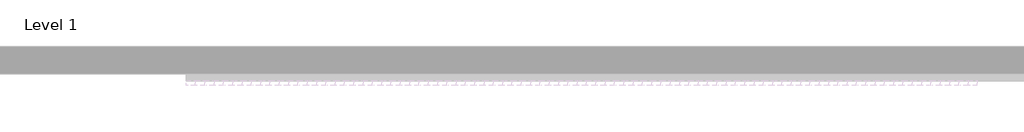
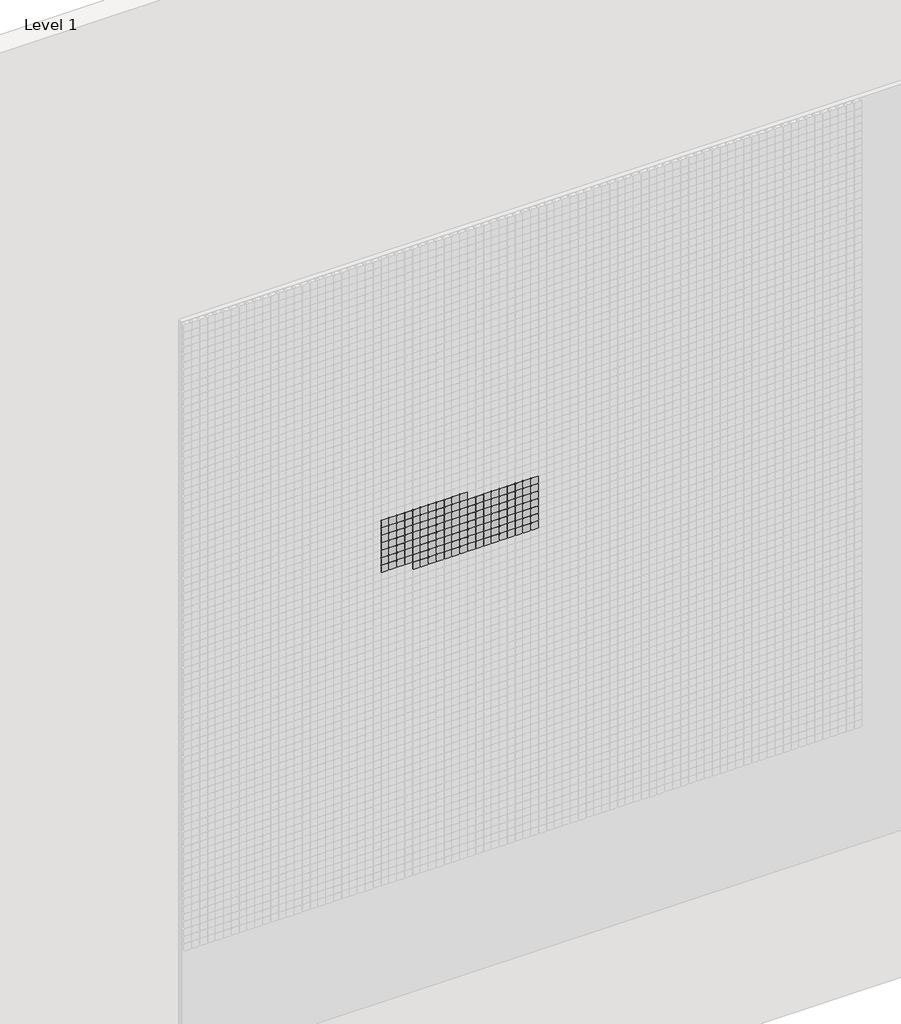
# One storey, part 26 of 71: 147 proxies.
"""IFC4 building model written with IfcOpenShell, lengths in millimetres."""

from ifc_helpers import new_model, si_unit, origin, place, context, project, spatial, transform, mapped, element, save
from components import generic_models_afde289c

model = new_model("IFC4")

# Units and contexts
model_context = context("Model", 3, world=origin())
ifc_project = project(units=[si_unit("LENGTHUNIT", "METRE", prefix="MILLI")], contexts=[model_context])

# Site, building, storey
site = spatial("IfcSite", under=ifc_project)
building = spatial("IfcBuilding", under=site)
storey = spatial("IfcBuildingStorey", under=building, Name="Level 1", Elevation=0.0)

# Proxies
placement = place(None, origin())
generic_models_shape = generic_models_afde289c(model_context)
element("IfcBuildingElementProxy", 1, Name="Pixel_M : Pixel_M", ObjectType="Pixel_M : Pixel_M", at=placement, inside=storey, context=model_context, shape_type="MappedRepresentation", body=[
    mapped(generic_models_shape, transform((6512.4280941, -75.0, 4216.3566215), x_axis=(1.0, 0.0, 0.0), y_axis=(0.0, 0.0, 1.0), z_axis=(0.0, -1.0, 0.0))),
])
element("IfcBuildingElementProxy", 2, Name="Pixel_M : Pixel_M", ObjectType="Pixel_M : Pixel_M", at=placement, inside=storey, context=model_context, shape_type="MappedRepresentation", body=[
    mapped(generic_models_shape, transform((6462.4280941, -75.0, 4216.3566215), x_axis=(1.0, 0.0, 0.0), y_axis=(0.0, 0.0, 1.0), z_axis=(0.0, -1.0, 0.0))),
])
element("IfcBuildingElementProxy", 3, Name="Pixel_M : Pixel_M", ObjectType="Pixel_M : Pixel_M", at=placement, inside=storey, context=model_context, shape_type="MappedRepresentation", body=[
    mapped(generic_models_shape, transform((6412.4280941, -75.0, 4216.3566215), x_axis=(1.0, 0.0, 0.0), y_axis=(0.0, 0.0, 1.0), z_axis=(0.0, -1.0, 0.0))),
])
element("IfcBuildingElementProxy", 4, Name="Pixel_M : Pixel_M", ObjectType="Pixel_M : Pixel_M", at=placement, inside=storey, context=model_context, shape_type="MappedRepresentation", body=[
    mapped(generic_models_shape, transform((6362.4280941, -75.0, 4216.3566215), x_axis=(1.0, 0.0, 0.0), y_axis=(0.0, 0.0, 1.0), z_axis=(0.0, -1.0, 0.0))),
])
element("IfcBuildingElementProxy", 5, Name="Pixel_M : Pixel_M", ObjectType="Pixel_M : Pixel_M", at=placement, inside=storey, context=model_context, shape_type="MappedRepresentation", body=[
    mapped(generic_models_shape, transform((6312.4280941, -75.0, 4216.3566215), x_axis=(1.0, 0.0, 0.0), y_axis=(0.0, 0.0, 1.0), z_axis=(0.0, -1.0, 0.0))),
])
element("IfcBuildingElementProxy", 6, Name="Pixel_M : Pixel_M", ObjectType="Pixel_M : Pixel_M", at=placement, inside=storey, context=model_context, shape_type="MappedRepresentation", body=[
    mapped(generic_models_shape, transform((6262.4280941, -75.0, 4216.3566215), x_axis=(1.0, 0.0, 0.0), y_axis=(0.0, 0.0, 1.0), z_axis=(0.0, -1.0, 0.0))),
])
element("IfcBuildingElementProxy", 7, Name="Pixel_M : Pixel_M", ObjectType="Pixel_M : Pixel_M", at=placement, inside=storey, context=model_context, shape_type="MappedRepresentation", body=[
    mapped(generic_models_shape, transform((6212.4280941, -75.0, 4216.3566215), x_axis=(1.0, 0.0, 0.0), y_axis=(0.0, 0.0, 1.0), z_axis=(0.0, -1.0, 0.0))),
])
element("IfcBuildingElementProxy", 8, Name="Pixel_M : Pixel_M", ObjectType="Pixel_M : Pixel_M", at=placement, inside=storey, context=model_context, shape_type="MappedRepresentation", body=[
    mapped(generic_models_shape, transform((6162.4280941, -75.0, 4216.3566215), x_axis=(1.0, 0.0, 0.0), y_axis=(0.0, 0.0, 1.0), z_axis=(0.0, -1.0, 0.0))),
])
element("IfcBuildingElementProxy", 9, Name="Pixel_M : Pixel_M", ObjectType="Pixel_M : Pixel_M", at=placement, inside=storey, context=model_context, shape_type="MappedRepresentation", body=[
    mapped(generic_models_shape, transform((6112.4280941, -75.0, 4216.3566215), x_axis=(1.0, 0.0, 0.0), y_axis=(0.0, 0.0, 1.0), z_axis=(0.0, -1.0, 0.0))),
])
element("IfcBuildingElementProxy", 10, Name="Pixel_M : Pixel_M", ObjectType="Pixel_M : Pixel_M", at=placement, inside=storey, context=model_context, shape_type="MappedRepresentation", body=[
    mapped(generic_models_shape, transform((6062.4280941, -75.0, 4216.3566215), x_axis=(1.0, 0.0, 0.0), y_axis=(0.0, 0.0, 1.0), z_axis=(0.0, -1.0, 0.0))),
])
element("IfcBuildingElementProxy", 11, Name="Pixel_M : Pixel_M", ObjectType="Pixel_M : Pixel_M", at=placement, inside=storey, context=model_context, shape_type="MappedRepresentation", body=[
    mapped(generic_models_shape, transform((6012.4280941, -75.0, 4216.3566215), x_axis=(1.0, 0.0, 0.0), y_axis=(0.0, 0.0, 1.0), z_axis=(0.0, -1.0, 0.0))),
])
element("IfcBuildingElementProxy", 12, Name="Pixel_M : Pixel_M", ObjectType="Pixel_M : Pixel_M", at=placement, inside=storey, context=model_context, shape_type="MappedRepresentation", body=[
    mapped(generic_models_shape, transform((6962.4280941, -75.0, 4166.3566215), x_axis=(1.0, 0.0, 0.0), y_axis=(0.0, 0.0, 1.0), z_axis=(0.0, -1.0, 0.0))),
])
element("IfcBuildingElementProxy", 13, Name="Pixel_M : Pixel_M", ObjectType="Pixel_M : Pixel_M", at=placement, inside=storey, context=model_context, shape_type="MappedRepresentation", body=[
    mapped(generic_models_shape, transform((6912.4280941, -75.0, 4166.3566215), x_axis=(1.0, 0.0, 0.0), y_axis=(0.0, 0.0, 1.0), z_axis=(0.0, -1.0, 0.0))),
])
element("IfcBuildingElementProxy", 14, Name="Pixel_M : Pixel_M", ObjectType="Pixel_M : Pixel_M", at=placement, inside=storey, context=model_context, shape_type="MappedRepresentation", body=[
    mapped(generic_models_shape, transform((6862.4280941, -75.0, 4166.3566215), x_axis=(1.0, 0.0, 0.0), y_axis=(0.0, 0.0, 1.0), z_axis=(0.0, -1.0, 0.0))),
])
element("IfcBuildingElementProxy", 15, Name="Pixel_M : Pixel_M", ObjectType="Pixel_M : Pixel_M", at=placement, inside=storey, context=model_context, shape_type="MappedRepresentation", body=[
    mapped(generic_models_shape, transform((6812.4280941, -75.0, 4166.3566215), x_axis=(1.0, 0.0, 0.0), y_axis=(0.0, 0.0, 1.0), z_axis=(0.0, -1.0, 0.0))),
])
element("IfcBuildingElementProxy", 16, Name="Pixel_M : Pixel_M", ObjectType="Pixel_M : Pixel_M", at=placement, inside=storey, context=model_context, shape_type="MappedRepresentation", body=[
    mapped(generic_models_shape, transform((6762.4280941, -75.0, 4166.3566215), x_axis=(1.0, 0.0, 0.0), y_axis=(0.0, 0.0, 1.0), z_axis=(0.0, -1.0, 0.0))),
])
element("IfcBuildingElementProxy", 17, Name="Pixel_M : Pixel_M", ObjectType="Pixel_M : Pixel_M", at=placement, inside=storey, context=model_context, shape_type="MappedRepresentation", body=[
    mapped(generic_models_shape, transform((6712.4280941, -75.0, 4166.3566215), x_axis=(1.0, 0.0, 0.0), y_axis=(0.0, 0.0, 1.0), z_axis=(0.0, -1.0, 0.0))),
])
element("IfcBuildingElementProxy", 18, Name="Pixel_M : Pixel_M", ObjectType="Pixel_M : Pixel_M", at=placement, inside=storey, context=model_context, shape_type="MappedRepresentation", body=[
    mapped(generic_models_shape, transform((6662.4280941, -75.0, 4166.3566215), x_axis=(1.0, 0.0, 0.0), y_axis=(0.0, 0.0, 1.0), z_axis=(0.0, -1.0, 0.0))),
])
element("IfcBuildingElementProxy", 19, Name="Pixel_M : Pixel_M", ObjectType="Pixel_M : Pixel_M", at=placement, inside=storey, context=model_context, shape_type="MappedRepresentation", body=[
    mapped(generic_models_shape, transform((6612.4280941, -75.0, 4166.3566215), x_axis=(1.0, 0.0, 0.0), y_axis=(0.0, 0.0, 1.0), z_axis=(0.0, -1.0, 0.0))),
])
element("IfcBuildingElementProxy", 20, Name="Pixel_M : Pixel_M", ObjectType="Pixel_M : Pixel_M", at=placement, inside=storey, context=model_context, shape_type="MappedRepresentation", body=[
    mapped(generic_models_shape, transform((6562.4280941, -75.0, 4166.3566215), x_axis=(1.0, 0.0, 0.0), y_axis=(0.0, 0.0, 1.0), z_axis=(0.0, -1.0, 0.0))),
])
element("IfcBuildingElementProxy", 21, Name="Pixel_M : Pixel_M", ObjectType="Pixel_M : Pixel_M", at=placement, inside=storey, context=model_context, shape_type="MappedRepresentation", body=[
    mapped(generic_models_shape, transform((6512.4280941, -75.0, 4166.3566215), x_axis=(1.0, 0.0, 0.0), y_axis=(0.0, 0.0, 1.0), z_axis=(0.0, -1.0, 0.0))),
])
element("IfcBuildingElementProxy", 22, Name="Pixel_M : Pixel_M", ObjectType="Pixel_M : Pixel_M", at=placement, inside=storey, context=model_context, shape_type="MappedRepresentation", body=[
    mapped(generic_models_shape, transform((6462.4280941, -75.0, 4166.3566215), x_axis=(1.0, 0.0, 0.0), y_axis=(0.0, 0.0, 1.0), z_axis=(0.0, -1.0, 0.0))),
])
element("IfcBuildingElementProxy", 23, Name="Pixel_M : Pixel_M", ObjectType="Pixel_M : Pixel_M", at=placement, inside=storey, context=model_context, shape_type="MappedRepresentation", body=[
    mapped(generic_models_shape, transform((6412.4280941, -75.0, 4166.3566215), x_axis=(1.0, 0.0, 0.0), y_axis=(0.0, 0.0, 1.0), z_axis=(0.0, -1.0, 0.0))),
])
element("IfcBuildingElementProxy", 24, Name="Pixel_M : Pixel_M", ObjectType="Pixel_M : Pixel_M", at=placement, inside=storey, context=model_context, shape_type="MappedRepresentation", body=[
    mapped(generic_models_shape, transform((6362.4280941, -75.0, 4166.3566215), x_axis=(1.0, 0.0, 0.0), y_axis=(0.0, 0.0, 1.0), z_axis=(0.0, -1.0, 0.0))),
])
element("IfcBuildingElementProxy", 25, Name="Pixel_M : Pixel_M", ObjectType="Pixel_M : Pixel_M", at=placement, inside=storey, context=model_context, shape_type="MappedRepresentation", body=[
    mapped(generic_models_shape, transform((6312.4280941, -75.0, 4166.3566215), x_axis=(1.0, 0.0, 0.0), y_axis=(0.0, 0.0, 1.0), z_axis=(0.0, -1.0, 0.0))),
])
element("IfcBuildingElementProxy", 26, Name="Pixel_M : Pixel_M", ObjectType="Pixel_M : Pixel_M", at=placement, inside=storey, context=model_context, shape_type="MappedRepresentation", body=[
    mapped(generic_models_shape, transform((6262.4280941, -75.0, 4166.3566215), x_axis=(1.0, 0.0, 0.0), y_axis=(0.0, 0.0, 1.0), z_axis=(0.0, -1.0, 0.0))),
])
element("IfcBuildingElementProxy", 27, Name="Pixel_M : Pixel_M", ObjectType="Pixel_M : Pixel_M", at=placement, inside=storey, context=model_context, shape_type="MappedRepresentation", body=[
    mapped(generic_models_shape, transform((6212.4280941, -75.0, 4166.3566215), x_axis=(1.0, 0.0, 0.0), y_axis=(0.0, 0.0, 1.0), z_axis=(0.0, -1.0, 0.0))),
])
element("IfcBuildingElementProxy", 28, Name="Pixel_M : Pixel_M", ObjectType="Pixel_M : Pixel_M", at=placement, inside=storey, context=model_context, shape_type="MappedRepresentation", body=[
    mapped(generic_models_shape, transform((6162.4280941, -75.0, 4166.3566215), x_axis=(1.0, 0.0, 0.0), y_axis=(0.0, 0.0, 1.0), z_axis=(0.0, -1.0, 0.0))),
])
element("IfcBuildingElementProxy", 29, Name="Pixel_M : Pixel_M", ObjectType="Pixel_M : Pixel_M", at=placement, inside=storey, context=model_context, shape_type="MappedRepresentation", body=[
    mapped(generic_models_shape, transform((6112.4280941, -75.0, 4166.3566215), x_axis=(1.0, 0.0, 0.0), y_axis=(0.0, 0.0, 1.0), z_axis=(0.0, -1.0, 0.0))),
])
element("IfcBuildingElementProxy", 30, Name="Pixel_M : Pixel_M", ObjectType="Pixel_M : Pixel_M", at=placement, inside=storey, context=model_context, shape_type="MappedRepresentation", body=[
    mapped(generic_models_shape, transform((6062.4280941, -75.0, 4166.3566215), x_axis=(1.0, 0.0, 0.0), y_axis=(0.0, 0.0, 1.0), z_axis=(0.0, -1.0, 0.0))),
])
element("IfcBuildingElementProxy", 31, Name="Pixel_M : Pixel_M", ObjectType="Pixel_M : Pixel_M", at=placement, inside=storey, context=model_context, shape_type="MappedRepresentation", body=[
    mapped(generic_models_shape, transform((6012.4280941, -75.0, 4166.3566215), x_axis=(1.0, 0.0, 0.0), y_axis=(0.0, 0.0, 1.0), z_axis=(0.0, -1.0, 0.0))),
])
element("IfcBuildingElementProxy", 32, Name="Pixel_M : Pixel_M", ObjectType="Pixel_M : Pixel_M", at=placement, inside=storey, context=model_context, shape_type="MappedRepresentation", body=[
    mapped(generic_models_shape, transform((6962.4280941, -75.0, 4116.3566215), x_axis=(1.0, 0.0, 0.0), y_axis=(0.0, 0.0, 1.0), z_axis=(0.0, -1.0, 0.0))),
])
element("IfcBuildingElementProxy", 33, Name="Pixel_M : Pixel_M", ObjectType="Pixel_M : Pixel_M", at=placement, inside=storey, context=model_context, shape_type="MappedRepresentation", body=[
    mapped(generic_models_shape, transform((6912.4280941, -75.0, 4116.3566215), x_axis=(1.0, 0.0, 0.0), y_axis=(0.0, 0.0, 1.0), z_axis=(0.0, -1.0, 0.0))),
])
element("IfcBuildingElementProxy", 34, Name="Pixel_M : Pixel_M", ObjectType="Pixel_M : Pixel_M", at=placement, inside=storey, context=model_context, shape_type="MappedRepresentation", body=[
    mapped(generic_models_shape, transform((6862.4280941, -75.0, 4116.3566215), x_axis=(1.0, 0.0, 0.0), y_axis=(0.0, 0.0, 1.0), z_axis=(0.0, -1.0, 0.0))),
])
element("IfcBuildingElementProxy", 35, Name="Pixel_M : Pixel_M", ObjectType="Pixel_M : Pixel_M", at=placement, inside=storey, context=model_context, shape_type="MappedRepresentation", body=[
    mapped(generic_models_shape, transform((6812.4280941, -75.0, 4116.3566215), x_axis=(1.0, 0.0, 0.0), y_axis=(0.0, 0.0, 1.0), z_axis=(0.0, -1.0, 0.0))),
])
element("IfcBuildingElementProxy", 36, Name="Pixel_M : Pixel_M", ObjectType="Pixel_M : Pixel_M", at=placement, inside=storey, context=model_context, shape_type="MappedRepresentation", body=[
    mapped(generic_models_shape, transform((6762.4280941, -75.0, 4116.3566215), x_axis=(1.0, 0.0, 0.0), y_axis=(0.0, 0.0, 1.0), z_axis=(0.0, -1.0, 0.0))),
])
element("IfcBuildingElementProxy", 37, Name="Pixel_M : Pixel_M", ObjectType="Pixel_M : Pixel_M", at=placement, inside=storey, context=model_context, shape_type="MappedRepresentation", body=[
    mapped(generic_models_shape, transform((6712.4280941, -75.0, 4116.3566215), x_axis=(1.0, 0.0, 0.0), y_axis=(0.0, 0.0, 1.0), z_axis=(0.0, -1.0, 0.0))),
])
element("IfcBuildingElementProxy", 38, Name="Pixel_M : Pixel_M", ObjectType="Pixel_M : Pixel_M", at=placement, inside=storey, context=model_context, shape_type="MappedRepresentation", body=[
    mapped(generic_models_shape, transform((6662.4280941, -75.0, 4116.3566215), x_axis=(1.0, 0.0, 0.0), y_axis=(0.0, 0.0, 1.0), z_axis=(0.0, -1.0, 0.0))),
])
element("IfcBuildingElementProxy", 39, Name="Pixel_M : Pixel_M", ObjectType="Pixel_M : Pixel_M", at=placement, inside=storey, context=model_context, shape_type="MappedRepresentation", body=[
    mapped(generic_models_shape, transform((6612.4280941, -75.0, 4116.3566215), x_axis=(1.0, 0.0, 0.0), y_axis=(0.0, 0.0, 1.0), z_axis=(0.0, -1.0, 0.0))),
])
element("IfcBuildingElementProxy", 40, Name="Pixel_M : Pixel_M", ObjectType="Pixel_M : Pixel_M", at=placement, inside=storey, context=model_context, shape_type="MappedRepresentation", body=[
    mapped(generic_models_shape, transform((6562.4280941, -75.0, 4116.3566215), x_axis=(1.0, 0.0, 0.0), y_axis=(0.0, 0.0, 1.0), z_axis=(0.0, -1.0, 0.0))),
])
element("IfcBuildingElementProxy", 41, Name="Pixel_M : Pixel_M", ObjectType="Pixel_M : Pixel_M", at=placement, inside=storey, context=model_context, shape_type="MappedRepresentation", body=[
    mapped(generic_models_shape, transform((6512.4280941, -75.0, 4116.3566215), x_axis=(1.0, 0.0, 0.0), y_axis=(0.0, 0.0, 1.0), z_axis=(0.0, -1.0, 0.0))),
])
element("IfcBuildingElementProxy", 42, Name="Pixel_M : Pixel_M", ObjectType="Pixel_M : Pixel_M", at=placement, inside=storey, context=model_context, shape_type="MappedRepresentation", body=[
    mapped(generic_models_shape, transform((6462.4280941, -75.0, 4116.3566215), x_axis=(1.0, 0.0, 0.0), y_axis=(0.0, 0.0, 1.0), z_axis=(0.0, -1.0, 0.0))),
])
element("IfcBuildingElementProxy", 43, Name="Pixel_M : Pixel_M", ObjectType="Pixel_M : Pixel_M", at=placement, inside=storey, context=model_context, shape_type="MappedRepresentation", body=[
    mapped(generic_models_shape, transform((6412.4280941, -75.0, 4116.3566215), x_axis=(1.0, 0.0, 0.0), y_axis=(0.0, 0.0, 1.0), z_axis=(0.0, -1.0, 0.0))),
])
element("IfcBuildingElementProxy", 44, Name="Pixel_M : Pixel_M", ObjectType="Pixel_M : Pixel_M", at=placement, inside=storey, context=model_context, shape_type="MappedRepresentation", body=[
    mapped(generic_models_shape, transform((6362.4280941, -75.0, 4116.3566215), x_axis=(1.0, 0.0, 0.0), y_axis=(0.0, 0.0, 1.0), z_axis=(0.0, -1.0, 0.0))),
])
element("IfcBuildingElementProxy", 45, Name="Pixel_M : Pixel_M", ObjectType="Pixel_M : Pixel_M", at=placement, inside=storey, context=model_context, shape_type="MappedRepresentation", body=[
    mapped(generic_models_shape, transform((6312.4280941, -75.0, 4116.3566215), x_axis=(1.0, 0.0, 0.0), y_axis=(0.0, 0.0, 1.0), z_axis=(0.0, -1.0, 0.0))),
])
element("IfcBuildingElementProxy", 46, Name="Pixel_M : Pixel_M", ObjectType="Pixel_M : Pixel_M", at=placement, inside=storey, context=model_context, shape_type="MappedRepresentation", body=[
    mapped(generic_models_shape, transform((6262.4280941, -75.0, 4116.3566215), x_axis=(1.0, 0.0, 0.0), y_axis=(0.0, 0.0, 1.0), z_axis=(0.0, -1.0, 0.0))),
])
element("IfcBuildingElementProxy", 47, Name="Pixel_M : Pixel_M", ObjectType="Pixel_M : Pixel_M", at=placement, inside=storey, context=model_context, shape_type="MappedRepresentation", body=[
    mapped(generic_models_shape, transform((6212.4280941, -75.0, 4116.3566215), x_axis=(1.0, 0.0, 0.0), y_axis=(0.0, 0.0, 1.0), z_axis=(0.0, -1.0, 0.0))),
])
element("IfcBuildingElementProxy", 48, Name="Pixel_M : Pixel_M", ObjectType="Pixel_M : Pixel_M", at=placement, inside=storey, context=model_context, shape_type="MappedRepresentation", body=[
    mapped(generic_models_shape, transform((6162.4280941, -75.0, 4116.3566215), x_axis=(1.0, 0.0, 0.0), y_axis=(0.0, 0.0, 1.0), z_axis=(0.0, -1.0, 0.0))),
])
element("IfcBuildingElementProxy", 49, Name="Pixel_M : Pixel_M", ObjectType="Pixel_M : Pixel_M", at=placement, inside=storey, context=model_context, shape_type="MappedRepresentation", body=[
    mapped(generic_models_shape, transform((6112.4280941, -75.0, 4116.3566215), x_axis=(1.0, 0.0, 0.0), y_axis=(0.0, 0.0, 1.0), z_axis=(0.0, -1.0, 0.0))),
])
element("IfcBuildingElementProxy", 50, Name="Pixel_M : Pixel_M", ObjectType="Pixel_M : Pixel_M", at=placement, inside=storey, context=model_context, shape_type="MappedRepresentation", body=[
    mapped(generic_models_shape, transform((6062.4280941, -75.0, 4116.3566215), x_axis=(1.0, 0.0, 0.0), y_axis=(0.0, 0.0, 1.0), z_axis=(0.0, -1.0, 0.0))),
])
element("IfcBuildingElementProxy", 51, Name="Pixel_M : Pixel_M", ObjectType="Pixel_M : Pixel_M", at=placement, inside=storey, context=model_context, shape_type="MappedRepresentation", body=[
    mapped(generic_models_shape, transform((6012.4280941, -75.0, 4116.3566215), x_axis=(1.0, 0.0, 0.0), y_axis=(0.0, 0.0, 1.0), z_axis=(0.0, -1.0, 0.0))),
])
element("IfcBuildingElementProxy", 52, Name="Pixel_M : Pixel_M", ObjectType="Pixel_M : Pixel_M", at=placement, inside=storey, context=model_context, shape_type="MappedRepresentation", body=[
    mapped(generic_models_shape, transform((6962.4280941, -75.0, 4066.3566215), x_axis=(1.0, 0.0, 0.0), y_axis=(0.0, 0.0, 1.0), z_axis=(0.0, -1.0, 0.0))),
])
element("IfcBuildingElementProxy", 53, Name="Pixel_M : Pixel_M", ObjectType="Pixel_M : Pixel_M", at=placement, inside=storey, context=model_context, shape_type="MappedRepresentation", body=[
    mapped(generic_models_shape, transform((6912.4280941, -75.0, 4066.3566215), x_axis=(1.0, 0.0, 0.0), y_axis=(0.0, 0.0, 1.0), z_axis=(0.0, -1.0, 0.0))),
])
element("IfcBuildingElementProxy", 54, Name="Pixel_M : Pixel_M", ObjectType="Pixel_M : Pixel_M", at=placement, inside=storey, context=model_context, shape_type="MappedRepresentation", body=[
    mapped(generic_models_shape, transform((6862.4280941, -75.0, 4066.3566215), x_axis=(1.0, 0.0, 0.0), y_axis=(0.0, 0.0, 1.0), z_axis=(0.0, -1.0, 0.0))),
])
element("IfcBuildingElementProxy", 55, Name="Pixel_M : Pixel_M", ObjectType="Pixel_M : Pixel_M", at=placement, inside=storey, context=model_context, shape_type="MappedRepresentation", body=[
    mapped(generic_models_shape, transform((6812.4280941, -75.0, 4066.3566215), x_axis=(1.0, 0.0, 0.0), y_axis=(0.0, 0.0, 1.0), z_axis=(0.0, -1.0, 0.0))),
])
element("IfcBuildingElementProxy", 56, Name="Pixel_M : Pixel_M", ObjectType="Pixel_M : Pixel_M", at=placement, inside=storey, context=model_context, shape_type="MappedRepresentation", body=[
    mapped(generic_models_shape, transform((6762.4280941, -75.0, 4066.3566215), x_axis=(1.0, 0.0, 0.0), y_axis=(0.0, 0.0, 1.0), z_axis=(0.0, -1.0, 0.0))),
])
element("IfcBuildingElementProxy", 57, Name="Pixel_M : Pixel_M", ObjectType="Pixel_M : Pixel_M", at=placement, inside=storey, context=model_context, shape_type="MappedRepresentation", body=[
    mapped(generic_models_shape, transform((6712.4280941, -75.0, 4066.3566215), x_axis=(1.0, 0.0, 0.0), y_axis=(0.0, 0.0, 1.0), z_axis=(0.0, -1.0, 0.0))),
])
element("IfcBuildingElementProxy", 58, Name="Pixel_M : Pixel_M", ObjectType="Pixel_M : Pixel_M", at=placement, inside=storey, context=model_context, shape_type="MappedRepresentation", body=[
    mapped(generic_models_shape, transform((6662.4280941, -75.0, 4066.3566215), x_axis=(1.0, 0.0, 0.0), y_axis=(0.0, 0.0, 1.0), z_axis=(0.0, -1.0, 0.0))),
])
element("IfcBuildingElementProxy", 59, Name="Pixel_M : Pixel_M", ObjectType="Pixel_M : Pixel_M", at=placement, inside=storey, context=model_context, shape_type="MappedRepresentation", body=[
    mapped(generic_models_shape, transform((6612.4280941, -75.0, 4066.3566215), x_axis=(1.0, 0.0, 0.0), y_axis=(0.0, 0.0, 1.0), z_axis=(0.0, -1.0, 0.0))),
])
element("IfcBuildingElementProxy", 60, Name="Pixel_M : Pixel_M", ObjectType="Pixel_M : Pixel_M", at=placement, inside=storey, context=model_context, shape_type="MappedRepresentation", body=[
    mapped(generic_models_shape, transform((6562.4280941, -75.0, 4066.3566215), x_axis=(1.0, 0.0, 0.0), y_axis=(0.0, 0.0, 1.0), z_axis=(0.0, -1.0, 0.0))),
])
element("IfcBuildingElementProxy", 61, Name="Pixel_M : Pixel_M", ObjectType="Pixel_M : Pixel_M", at=placement, inside=storey, context=model_context, shape_type="MappedRepresentation", body=[
    mapped(generic_models_shape, transform((6512.4280941, -75.0, 4066.3566215), x_axis=(1.0, 0.0, 0.0), y_axis=(0.0, 0.0, 1.0), z_axis=(0.0, -1.0, 0.0))),
])
element("IfcBuildingElementProxy", 62, Name="Pixel_M : Pixel_M", ObjectType="Pixel_M : Pixel_M", at=placement, inside=storey, context=model_context, shape_type="MappedRepresentation", body=[
    mapped(generic_models_shape, transform((6462.4280941, -75.0, 4066.3566215), x_axis=(1.0, 0.0, 0.0), y_axis=(0.0, 0.0, 1.0), z_axis=(0.0, -1.0, 0.0))),
])
element("IfcBuildingElementProxy", 63, Name="Pixel_M : Pixel_M", ObjectType="Pixel_M : Pixel_M", at=placement, inside=storey, context=model_context, shape_type="MappedRepresentation", body=[
    mapped(generic_models_shape, transform((6412.4280941, -75.0, 4066.3566215), x_axis=(1.0, 0.0, 0.0), y_axis=(0.0, 0.0, 1.0), z_axis=(0.0, -1.0, 0.0))),
])
element("IfcBuildingElementProxy", 64, Name="Pixel_M : Pixel_M", ObjectType="Pixel_M : Pixel_M", at=placement, inside=storey, context=model_context, shape_type="MappedRepresentation", body=[
    mapped(generic_models_shape, transform((6362.4280941, -75.0, 4066.3566215), x_axis=(1.0, 0.0, 0.0), y_axis=(0.0, 0.0, 1.0), z_axis=(0.0, -1.0, 0.0))),
])
element("IfcBuildingElementProxy", 65, Name="Pixel_M : Pixel_M", ObjectType="Pixel_M : Pixel_M", at=placement, inside=storey, context=model_context, shape_type="MappedRepresentation", body=[
    mapped(generic_models_shape, transform((6312.4280941, -75.0, 4066.3566215), x_axis=(1.0, 0.0, 0.0), y_axis=(0.0, 0.0, 1.0), z_axis=(0.0, -1.0, 0.0))),
])
element("IfcBuildingElementProxy", 66, Name="Pixel_M : Pixel_M", ObjectType="Pixel_M : Pixel_M", at=placement, inside=storey, context=model_context, shape_type="MappedRepresentation", body=[
    mapped(generic_models_shape, transform((6262.4280941, -75.0, 4066.3566215), x_axis=(1.0, 0.0, 0.0), y_axis=(0.0, 0.0, 1.0), z_axis=(0.0, -1.0, 0.0))),
])
element("IfcBuildingElementProxy", 67, Name="Pixel_M : Pixel_M", ObjectType="Pixel_M : Pixel_M", at=placement, inside=storey, context=model_context, shape_type="MappedRepresentation", body=[
    mapped(generic_models_shape, transform((6212.4280941, -75.0, 4066.3566215), x_axis=(1.0, 0.0, 0.0), y_axis=(0.0, 0.0, 1.0), z_axis=(0.0, -1.0, 0.0))),
])
element("IfcBuildingElementProxy", 68, Name="Pixel_M : Pixel_M", ObjectType="Pixel_M : Pixel_M", at=placement, inside=storey, context=model_context, shape_type="MappedRepresentation", body=[
    mapped(generic_models_shape, transform((6162.4280941, -75.0, 4066.3566215), x_axis=(1.0, 0.0, 0.0), y_axis=(0.0, 0.0, 1.0), z_axis=(0.0, -1.0, 0.0))),
])
element("IfcBuildingElementProxy", 69, Name="Pixel_M : Pixel_M", ObjectType="Pixel_M : Pixel_M", at=placement, inside=storey, context=model_context, shape_type="MappedRepresentation", body=[
    mapped(generic_models_shape, transform((6112.4280941, -75.0, 4066.3566215), x_axis=(1.0, 0.0, 0.0), y_axis=(0.0, 0.0, 1.0), z_axis=(0.0, -1.0, 0.0))),
])
element("IfcBuildingElementProxy", 70, Name="Pixel_M : Pixel_M", ObjectType="Pixel_M : Pixel_M", at=placement, inside=storey, context=model_context, shape_type="MappedRepresentation", body=[
    mapped(generic_models_shape, transform((6062.4280941, -75.0, 4066.3566215), x_axis=(1.0, 0.0, 0.0), y_axis=(0.0, 0.0, 1.0), z_axis=(0.0, -1.0, 0.0))),
])
element("IfcBuildingElementProxy", 71, Name="Pixel_M : Pixel_M", ObjectType="Pixel_M : Pixel_M", at=placement, inside=storey, context=model_context, shape_type="MappedRepresentation", body=[
    mapped(generic_models_shape, transform((6012.4280941, -75.0, 4066.3566215), x_axis=(1.0, 0.0, 0.0), y_axis=(0.0, 0.0, 1.0), z_axis=(0.0, -1.0, 0.0))),
])
element("IfcBuildingElementProxy", 72, Name="Pixel_M : Pixel_M", ObjectType="Pixel_M : Pixel_M", at=placement, inside=storey, context=model_context, shape_type="MappedRepresentation", body=[
    mapped(generic_models_shape, transform((6962.4280941, -75.0, 4016.3566215), x_axis=(1.0, 0.0, 0.0), y_axis=(0.0, 0.0, 1.0), z_axis=(0.0, -1.0, 0.0))),
])
element("IfcBuildingElementProxy", 73, Name="Pixel_M : Pixel_M", ObjectType="Pixel_M : Pixel_M", at=placement, inside=storey, context=model_context, shape_type="MappedRepresentation", body=[
    mapped(generic_models_shape, transform((6912.4280941, -75.0, 4016.3566215), x_axis=(1.0, 0.0, 0.0), y_axis=(0.0, 0.0, 1.0), z_axis=(0.0, -1.0, 0.0))),
])
element("IfcBuildingElementProxy", 74, Name="Pixel_M : Pixel_M", ObjectType="Pixel_M : Pixel_M", at=placement, inside=storey, context=model_context, shape_type="MappedRepresentation", body=[
    mapped(generic_models_shape, transform((6862.4280941, -75.0, 4016.3566215), x_axis=(1.0, 0.0, 0.0), y_axis=(0.0, 0.0, 1.0), z_axis=(0.0, -1.0, 0.0))),
])
element("IfcBuildingElementProxy", 75, Name="Pixel_M : Pixel_M", ObjectType="Pixel_M : Pixel_M", at=placement, inside=storey, context=model_context, shape_type="MappedRepresentation", body=[
    mapped(generic_models_shape, transform((6812.4280941, -75.0, 4016.3566215), x_axis=(1.0, 0.0, 0.0), y_axis=(0.0, 0.0, 1.0), z_axis=(0.0, -1.0, 0.0))),
])
element("IfcBuildingElementProxy", 76, Name="Pixel_M : Pixel_M", ObjectType="Pixel_M : Pixel_M", at=placement, inside=storey, context=model_context, shape_type="MappedRepresentation", body=[
    mapped(generic_models_shape, transform((6762.4280941, -75.0, 4016.3566215), x_axis=(1.0, 0.0, 0.0), y_axis=(0.0, 0.0, 1.0), z_axis=(0.0, -1.0, 0.0))),
])
element("IfcBuildingElementProxy", 77, Name="Pixel_M : Pixel_M", ObjectType="Pixel_M : Pixel_M", at=placement, inside=storey, context=model_context, shape_type="MappedRepresentation", body=[
    mapped(generic_models_shape, transform((6712.4280941, -75.0, 4016.3566215), x_axis=(1.0, 0.0, 0.0), y_axis=(0.0, 0.0, 1.0), z_axis=(0.0, -1.0, 0.0))),
])
element("IfcBuildingElementProxy", 78, Name="Pixel_M : Pixel_M", ObjectType="Pixel_M : Pixel_M", at=placement, inside=storey, context=model_context, shape_type="MappedRepresentation", body=[
    mapped(generic_models_shape, transform((6662.4280941, -75.0, 4016.3566215), x_axis=(1.0, 0.0, 0.0), y_axis=(0.0, 0.0, 1.0), z_axis=(0.0, -1.0, 0.0))),
])
element("IfcBuildingElementProxy", 79, Name="Pixel_M : Pixel_M", ObjectType="Pixel_M : Pixel_M", at=placement, inside=storey, context=model_context, shape_type="MappedRepresentation", body=[
    mapped(generic_models_shape, transform((6612.4280941, -75.0, 4016.3566215), x_axis=(1.0, 0.0, 0.0), y_axis=(0.0, 0.0, 1.0), z_axis=(0.0, -1.0, 0.0))),
])
element("IfcBuildingElementProxy", 80, Name="Pixel_M : Pixel_M", ObjectType="Pixel_M : Pixel_M", at=placement, inside=storey, context=model_context, shape_type="MappedRepresentation", body=[
    mapped(generic_models_shape, transform((6562.4280941, -75.0, 4016.3566215), x_axis=(1.0, 0.0, 0.0), y_axis=(0.0, 0.0, 1.0), z_axis=(0.0, -1.0, 0.0))),
])
element("IfcBuildingElementProxy", 81, Name="Pixel_M : Pixel_M", ObjectType="Pixel_M : Pixel_M", at=placement, inside=storey, context=model_context, shape_type="MappedRepresentation", body=[
    mapped(generic_models_shape, transform((6512.4280941, -75.0, 4016.3566215), x_axis=(1.0, 0.0, 0.0), y_axis=(0.0, 0.0, 1.0), z_axis=(0.0, -1.0, 0.0))),
])
element("IfcBuildingElementProxy", 82, Name="Pixel_M : Pixel_M", ObjectType="Pixel_M : Pixel_M", at=placement, inside=storey, context=model_context, shape_type="MappedRepresentation", body=[
    mapped(generic_models_shape, transform((6462.4280941, -75.0, 4016.3566215), x_axis=(1.0, 0.0, 0.0), y_axis=(0.0, 0.0, 1.0), z_axis=(0.0, -1.0, 0.0))),
])
element("IfcBuildingElementProxy", 83, Name="Pixel_M : Pixel_M", ObjectType="Pixel_M : Pixel_M", at=placement, inside=storey, context=model_context, shape_type="MappedRepresentation", body=[
    mapped(generic_models_shape, transform((6412.4280941, -75.0, 4016.3566215), x_axis=(1.0, 0.0, 0.0), y_axis=(0.0, 0.0, 1.0), z_axis=(0.0, -1.0, 0.0))),
])
element("IfcBuildingElementProxy", 84, Name="Pixel_M : Pixel_M", ObjectType="Pixel_M : Pixel_M", at=placement, inside=storey, context=model_context, shape_type="MappedRepresentation", body=[
    mapped(generic_models_shape, transform((6362.4280941, -75.0, 4016.3566215), x_axis=(1.0, 0.0, 0.0), y_axis=(0.0, 0.0, 1.0), z_axis=(0.0, -1.0, 0.0))),
])
element("IfcBuildingElementProxy", 85, Name="Pixel_M : Pixel_M", ObjectType="Pixel_M : Pixel_M", at=placement, inside=storey, context=model_context, shape_type="MappedRepresentation", body=[
    mapped(generic_models_shape, transform((6312.4280941, -75.0, 4016.3566215), x_axis=(1.0, 0.0, 0.0), y_axis=(0.0, 0.0, 1.0), z_axis=(0.0, -1.0, 0.0))),
])
element("IfcBuildingElementProxy", 86, Name="Pixel_M : Pixel_M", ObjectType="Pixel_M : Pixel_M", at=placement, inside=storey, context=model_context, shape_type="MappedRepresentation", body=[
    mapped(generic_models_shape, transform((6262.4280941, -75.0, 4016.3566215), x_axis=(1.0, 0.0, 0.0), y_axis=(0.0, 0.0, 1.0), z_axis=(0.0, -1.0, 0.0))),
])
element("IfcBuildingElementProxy", 87, Name="Pixel_M : Pixel_M", ObjectType="Pixel_M : Pixel_M", at=placement, inside=storey, context=model_context, shape_type="MappedRepresentation", body=[
    mapped(generic_models_shape, transform((6212.4280941, -75.0, 4016.3566215), x_axis=(1.0, 0.0, 0.0), y_axis=(0.0, 0.0, 1.0), z_axis=(0.0, -1.0, 0.0))),
])
element("IfcBuildingElementProxy", 88, Name="Pixel_M : Pixel_M", ObjectType="Pixel_M : Pixel_M", at=placement, inside=storey, context=model_context, shape_type="MappedRepresentation", body=[
    mapped(generic_models_shape, transform((6162.4280941, -75.0, 4016.3566215), x_axis=(1.0, 0.0, 0.0), y_axis=(0.0, 0.0, 1.0), z_axis=(0.0, -1.0, 0.0))),
])
element("IfcBuildingElementProxy", 89, Name="Pixel_M : Pixel_M", ObjectType="Pixel_M : Pixel_M", at=placement, inside=storey, context=model_context, shape_type="MappedRepresentation", body=[
    mapped(generic_models_shape, transform((6112.4280941, -75.0, 4016.3566215), x_axis=(1.0, 0.0, 0.0), y_axis=(0.0, 0.0, 1.0), z_axis=(0.0, -1.0, 0.0))),
])
element("IfcBuildingElementProxy", 90, Name="Pixel_M : Pixel_M", ObjectType="Pixel_M : Pixel_M", at=placement, inside=storey, context=model_context, shape_type="MappedRepresentation", body=[
    mapped(generic_models_shape, transform((6062.4280941, -75.0, 4016.3566215), x_axis=(1.0, 0.0, 0.0), y_axis=(0.0, 0.0, 1.0), z_axis=(0.0, -1.0, 0.0))),
])
element("IfcBuildingElementProxy", 91, Name="Pixel_M : Pixel_M", ObjectType="Pixel_M : Pixel_M", at=placement, inside=storey, context=model_context, shape_type="MappedRepresentation", body=[
    mapped(generic_models_shape, transform((6012.4280941, -75.0, 4016.3566215), x_axis=(1.0, 0.0, 0.0), y_axis=(0.0, 0.0, 1.0), z_axis=(0.0, -1.0, 0.0))),
])
element("IfcBuildingElementProxy", 92, Name="Pixel_M : Pixel_M", ObjectType="Pixel_M : Pixel_M", at=placement, inside=storey, context=model_context, shape_type="MappedRepresentation", body=[
    mapped(generic_models_shape, transform((6962.4280941, -75.0, 3966.3566215), x_axis=(1.0, 0.0, 0.0), y_axis=(0.0, 0.0, 1.0), z_axis=(0.0, -1.0, 0.0))),
])
element("IfcBuildingElementProxy", 93, Name="Pixel_M : Pixel_M", ObjectType="Pixel_M : Pixel_M", at=placement, inside=storey, context=model_context, shape_type="MappedRepresentation", body=[
    mapped(generic_models_shape, transform((6912.4280941, -75.0, 3966.3566215), x_axis=(1.0, 0.0, 0.0), y_axis=(0.0, 0.0, 1.0), z_axis=(0.0, -1.0, 0.0))),
])
element("IfcBuildingElementProxy", 94, Name="Pixel_M : Pixel_M", ObjectType="Pixel_M : Pixel_M", at=placement, inside=storey, context=model_context, shape_type="MappedRepresentation", body=[
    mapped(generic_models_shape, transform((6862.4280941, -75.0, 3966.3566215), x_axis=(1.0, 0.0, 0.0), y_axis=(0.0, 0.0, 1.0), z_axis=(0.0, -1.0, 0.0))),
])
element("IfcBuildingElementProxy", 95, Name="Pixel_M : Pixel_M", ObjectType="Pixel_M : Pixel_M", at=placement, inside=storey, context=model_context, shape_type="MappedRepresentation", body=[
    mapped(generic_models_shape, transform((6812.4280941, -75.0, 3966.3566215), x_axis=(1.0, 0.0, 0.0), y_axis=(0.0, 0.0, 1.0), z_axis=(0.0, -1.0, 0.0))),
])
element("IfcBuildingElementProxy", 96, Name="Pixel_M : Pixel_M", ObjectType="Pixel_M : Pixel_M", at=placement, inside=storey, context=model_context, shape_type="MappedRepresentation", body=[
    mapped(generic_models_shape, transform((6762.4280941, -75.0, 3966.3566215), x_axis=(1.0, 0.0, 0.0), y_axis=(0.0, 0.0, 1.0), z_axis=(0.0, -1.0, 0.0))),
])
element("IfcBuildingElementProxy", 97, Name="Pixel_M : Pixel_M", ObjectType="Pixel_M : Pixel_M", at=placement, inside=storey, context=model_context, shape_type="MappedRepresentation", body=[
    mapped(generic_models_shape, transform((6712.4280941, -75.0, 3966.3566215), x_axis=(1.0, 0.0, 0.0), y_axis=(0.0, 0.0, 1.0), z_axis=(0.0, -1.0, 0.0))),
])
element("IfcBuildingElementProxy", 98, Name="Pixel_M : Pixel_M", ObjectType="Pixel_M : Pixel_M", at=placement, inside=storey, context=model_context, shape_type="MappedRepresentation", body=[
    mapped(generic_models_shape, transform((6662.4280941, -75.0, 3966.3566215), x_axis=(1.0, 0.0, 0.0), y_axis=(0.0, 0.0, 1.0), z_axis=(0.0, -1.0, 0.0))),
])
element("IfcBuildingElementProxy", 99, Name="Pixel_M : Pixel_M", ObjectType="Pixel_M : Pixel_M", at=placement, inside=storey, context=model_context, shape_type="MappedRepresentation", body=[
    mapped(generic_models_shape, transform((6612.4280941, -75.0, 3966.3566215), x_axis=(1.0, 0.0, 0.0), y_axis=(0.0, 0.0, 1.0), z_axis=(0.0, -1.0, 0.0))),
])
element("IfcBuildingElementProxy", 100, Name="Pixel_M : Pixel_M", ObjectType="Pixel_M : Pixel_M", at=placement, inside=storey, context=model_context, shape_type="MappedRepresentation", body=[
    mapped(generic_models_shape, transform((6562.4280941, -75.0, 3966.3566215), x_axis=(1.0, 0.0, 0.0), y_axis=(0.0, 0.0, 1.0), z_axis=(0.0, -1.0, 0.0))),
])
element("IfcBuildingElementProxy", 101, Name="Pixel_M : Pixel_M", ObjectType="Pixel_M : Pixel_M", at=placement, inside=storey, context=model_context, shape_type="MappedRepresentation", body=[
    mapped(generic_models_shape, transform((6512.4280941, -75.0, 3966.3566215), x_axis=(1.0, 0.0, 0.0), y_axis=(0.0, 0.0, 1.0), z_axis=(0.0, -1.0, 0.0))),
])
element("IfcBuildingElementProxy", 102, Name="Pixel_M : Pixel_M", ObjectType="Pixel_M : Pixel_M", at=placement, inside=storey, context=model_context, shape_type="MappedRepresentation", body=[
    mapped(generic_models_shape, transform((6462.4280941, -75.0, 3966.3566215), x_axis=(1.0, 0.0, 0.0), y_axis=(0.0, 0.0, 1.0), z_axis=(0.0, -1.0, 0.0))),
])
element("IfcBuildingElementProxy", 103, Name="Pixel_M : Pixel_M", ObjectType="Pixel_M : Pixel_M", at=placement, inside=storey, context=model_context, shape_type="MappedRepresentation", body=[
    mapped(generic_models_shape, transform((6412.4280941, -75.0, 3966.3566215), x_axis=(1.0, 0.0, 0.0), y_axis=(0.0, 0.0, 1.0), z_axis=(0.0, -1.0, 0.0))),
])
element("IfcBuildingElementProxy", 104, Name="Pixel_M : Pixel_M", ObjectType="Pixel_M : Pixel_M", at=placement, inside=storey, context=model_context, shape_type="MappedRepresentation", body=[
    mapped(generic_models_shape, transform((6362.4280941, -75.0, 3966.3566215), x_axis=(1.0, 0.0, 0.0), y_axis=(0.0, 0.0, 1.0), z_axis=(0.0, -1.0, 0.0))),
])
element("IfcBuildingElementProxy", 105, Name="Pixel_M : Pixel_M", ObjectType="Pixel_M : Pixel_M", at=placement, inside=storey, context=model_context, shape_type="MappedRepresentation", body=[
    mapped(generic_models_shape, transform((6312.4280941, -75.0, 3966.3566215), x_axis=(1.0, 0.0, 0.0), y_axis=(0.0, 0.0, 1.0), z_axis=(0.0, -1.0, 0.0))),
])
element("IfcBuildingElementProxy", 106, Name="Pixel_M : Pixel_M", ObjectType="Pixel_M : Pixel_M", at=placement, inside=storey, context=model_context, shape_type="MappedRepresentation", body=[
    mapped(generic_models_shape, transform((6262.4280941, -75.0, 3966.3566215), x_axis=(1.0, 0.0, 0.0), y_axis=(0.0, 0.0, 1.0), z_axis=(0.0, -1.0, 0.0))),
])
element("IfcBuildingElementProxy", 107, Name="Pixel_M : Pixel_M", ObjectType="Pixel_M : Pixel_M", at=placement, inside=storey, context=model_context, shape_type="MappedRepresentation", body=[
    mapped(generic_models_shape, transform((6212.4280941, -75.0, 3966.3566215), x_axis=(1.0, 0.0, 0.0), y_axis=(0.0, 0.0, 1.0), z_axis=(0.0, -1.0, 0.0))),
])
element("IfcBuildingElementProxy", 108, Name="Pixel_M : Pixel_M", ObjectType="Pixel_M : Pixel_M", at=placement, inside=storey, context=model_context, shape_type="MappedRepresentation", body=[
    mapped(generic_models_shape, transform((6162.4280941, -75.0, 3966.3566215), x_axis=(1.0, 0.0, 0.0), y_axis=(0.0, 0.0, 1.0), z_axis=(0.0, -1.0, 0.0))),
])
element("IfcBuildingElementProxy", 109, Name="Pixel_M : Pixel_M", ObjectType="Pixel_M : Pixel_M", at=placement, inside=storey, context=model_context, shape_type="MappedRepresentation", body=[
    mapped(generic_models_shape, transform((6112.4280941, -75.0, 3966.3566215), x_axis=(1.0, 0.0, 0.0), y_axis=(0.0, 0.0, 1.0), z_axis=(0.0, -1.0, 0.0))),
])
element("IfcBuildingElementProxy", 110, Name="Pixel_M : Pixel_M", ObjectType="Pixel_M : Pixel_M", at=placement, inside=storey, context=model_context, shape_type="MappedRepresentation", body=[
    mapped(generic_models_shape, transform((6062.4280941, -75.0, 3966.3566215), x_axis=(1.0, 0.0, 0.0), y_axis=(0.0, 0.0, 1.0), z_axis=(0.0, -1.0, 0.0))),
])
element("IfcBuildingElementProxy", 111, Name="Pixel_M : Pixel_M", ObjectType="Pixel_M : Pixel_M", at=placement, inside=storey, context=model_context, shape_type="MappedRepresentation", body=[
    mapped(generic_models_shape, transform((6012.4280941, -75.0, 3966.3566215), x_axis=(1.0, 0.0, 0.0), y_axis=(0.0, 0.0, 1.0), z_axis=(0.0, -1.0, 0.0))),
])
element("IfcBuildingElementProxy", 112, Name="Pixel_M : Pixel_M", ObjectType="Pixel_M : Pixel_M", at=placement, inside=storey, context=model_context, shape_type="MappedRepresentation", body=[
    mapped(generic_models_shape, transform((6962.4280941, -75.0, 3916.3566215), x_axis=(1.0, 0.0, 0.0), y_axis=(0.0, 0.0, 1.0), z_axis=(0.0, -1.0, 0.0))),
])
element("IfcBuildingElementProxy", 113, Name="Pixel_M : Pixel_M", ObjectType="Pixel_M : Pixel_M", at=placement, inside=storey, context=model_context, shape_type="MappedRepresentation", body=[
    mapped(generic_models_shape, transform((6912.4280941, -75.0, 3916.3566215), x_axis=(1.0, 0.0, 0.0), y_axis=(0.0, 0.0, 1.0), z_axis=(0.0, -1.0, 0.0))),
])
element("IfcBuildingElementProxy", 114, Name="Pixel_M : Pixel_M", ObjectType="Pixel_M : Pixel_M", at=placement, inside=storey, context=model_context, shape_type="MappedRepresentation", body=[
    mapped(generic_models_shape, transform((6862.4280941, -75.0, 3916.3566215), x_axis=(1.0, 0.0, 0.0), y_axis=(0.0, 0.0, 1.0), z_axis=(0.0, -1.0, 0.0))),
])
element("IfcBuildingElementProxy", 115, Name="Pixel_M : Pixel_M", ObjectType="Pixel_M : Pixel_M", at=placement, inside=storey, context=model_context, shape_type="MappedRepresentation", body=[
    mapped(generic_models_shape, transform((6812.4280941, -75.0, 3916.3566215), x_axis=(1.0, 0.0, 0.0), y_axis=(0.0, 0.0, 1.0), z_axis=(0.0, -1.0, 0.0))),
])
element("IfcBuildingElementProxy", 116, Name="Pixel_M : Pixel_M", ObjectType="Pixel_M : Pixel_M", at=placement, inside=storey, context=model_context, shape_type="MappedRepresentation", body=[
    mapped(generic_models_shape, transform((6762.4280941, -75.0, 3916.3566215), x_axis=(1.0, 0.0, 0.0), y_axis=(0.0, 0.0, 1.0), z_axis=(0.0, -1.0, 0.0))),
])
element("IfcBuildingElementProxy", 117, Name="Pixel_M : Pixel_M", ObjectType="Pixel_M : Pixel_M", at=placement, inside=storey, context=model_context, shape_type="MappedRepresentation", body=[
    mapped(generic_models_shape, transform((6712.4280941, -75.0, 3916.3566215), x_axis=(1.0, 0.0, 0.0), y_axis=(0.0, 0.0, 1.0), z_axis=(0.0, -1.0, 0.0))),
])
element("IfcBuildingElementProxy", 118, Name="Pixel_M : Pixel_M", ObjectType="Pixel_M : Pixel_M", at=placement, inside=storey, context=model_context, shape_type="MappedRepresentation", body=[
    mapped(generic_models_shape, transform((6662.4280941, -75.0, 3916.3566215), x_axis=(1.0, 0.0, 0.0), y_axis=(0.0, 0.0, 1.0), z_axis=(0.0, -1.0, 0.0))),
])
element("IfcBuildingElementProxy", 119, Name="Pixel_M : Pixel_M", ObjectType="Pixel_M : Pixel_M", at=placement, inside=storey, context=model_context, shape_type="MappedRepresentation", body=[
    mapped(generic_models_shape, transform((6612.4280941, -75.0, 3916.3566215), x_axis=(1.0, 0.0, 0.0), y_axis=(0.0, 0.0, 1.0), z_axis=(0.0, -1.0, 0.0))),
])
element("IfcBuildingElementProxy", 120, Name="Pixel_M : Pixel_M", ObjectType="Pixel_M : Pixel_M", at=placement, inside=storey, context=model_context, shape_type="MappedRepresentation", body=[
    mapped(generic_models_shape, transform((6562.4280941, -75.0, 3916.3566215), x_axis=(1.0, 0.0, 0.0), y_axis=(0.0, 0.0, 1.0), z_axis=(0.0, -1.0, 0.0))),
])
element("IfcBuildingElementProxy", 121, Name="Pixel_M : Pixel_M", ObjectType="Pixel_M : Pixel_M", at=placement, inside=storey, context=model_context, shape_type="MappedRepresentation", body=[
    mapped(generic_models_shape, transform((6512.4280941, -75.0, 3916.3566215), x_axis=(1.0, 0.0, 0.0), y_axis=(0.0, 0.0, 1.0), z_axis=(0.0, -1.0, 0.0))),
])
element("IfcBuildingElementProxy", 122, Name="Pixel_M : Pixel_M", ObjectType="Pixel_M : Pixel_M", at=placement, inside=storey, context=model_context, shape_type="MappedRepresentation", body=[
    mapped(generic_models_shape, transform((6462.4280941, -75.0, 3916.3566215), x_axis=(1.0, 0.0, 0.0), y_axis=(0.0, 0.0, 1.0), z_axis=(0.0, -1.0, 0.0))),
])
element("IfcBuildingElementProxy", 123, Name="Pixel_M : Pixel_M", ObjectType="Pixel_M : Pixel_M", at=placement, inside=storey, context=model_context, shape_type="MappedRepresentation", body=[
    mapped(generic_models_shape, transform((6412.4280941, -75.0, 3916.3566215), x_axis=(1.0, 0.0, 0.0), y_axis=(0.0, 0.0, 1.0), z_axis=(0.0, -1.0, 0.0))),
])
element("IfcBuildingElementProxy", 124, Name="Pixel_M : Pixel_M", ObjectType="Pixel_M : Pixel_M", at=placement, inside=storey, context=model_context, shape_type="MappedRepresentation", body=[
    mapped(generic_models_shape, transform((6362.4280941, -75.0, 3916.3566215), x_axis=(1.0, 0.0, 0.0), y_axis=(0.0, 0.0, 1.0), z_axis=(0.0, -1.0, 0.0))),
])
element("IfcBuildingElementProxy", 125, Name="Pixel_M : Pixel_M", ObjectType="Pixel_M : Pixel_M", at=placement, inside=storey, context=model_context, shape_type="MappedRepresentation", body=[
    mapped(generic_models_shape, transform((6312.4280941, -75.0, 3916.3566215), x_axis=(1.0, 0.0, 0.0), y_axis=(0.0, 0.0, 1.0), z_axis=(0.0, -1.0, 0.0))),
])
element("IfcBuildingElementProxy", 126, Name="Pixel_M : Pixel_M", ObjectType="Pixel_M : Pixel_M", at=placement, inside=storey, context=model_context, shape_type="MappedRepresentation", body=[
    mapped(generic_models_shape, transform((6262.4280941, -75.0, 3916.3566215), x_axis=(1.0, 0.0, 0.0), y_axis=(0.0, 0.0, 1.0), z_axis=(0.0, -1.0, 0.0))),
])
element("IfcBuildingElementProxy", 127, Name="Pixel_M : Pixel_M", ObjectType="Pixel_M : Pixel_M", at=placement, inside=storey, context=model_context, shape_type="MappedRepresentation", body=[
    mapped(generic_models_shape, transform((6212.4280941, -75.0, 3916.3566215), x_axis=(1.0, 0.0, 0.0), y_axis=(0.0, 0.0, 1.0), z_axis=(0.0, -1.0, 0.0))),
])
element("IfcBuildingElementProxy", 128, Name="Pixel_M : Pixel_M", ObjectType="Pixel_M : Pixel_M", at=placement, inside=storey, context=model_context, shape_type="MappedRepresentation", body=[
    mapped(generic_models_shape, transform((6162.4280941, -75.0, 3916.3566215), x_axis=(1.0, 0.0, 0.0), y_axis=(0.0, 0.0, 1.0), z_axis=(0.0, -1.0, 0.0))),
])
element("IfcBuildingElementProxy", 129, Name="Pixel_M : Pixel_M", ObjectType="Pixel_M : Pixel_M", at=placement, inside=storey, context=model_context, shape_type="MappedRepresentation", body=[
    mapped(generic_models_shape, transform((6112.4280941, -75.0, 3916.3566215), x_axis=(1.0, 0.0, 0.0), y_axis=(0.0, 0.0, 1.0), z_axis=(0.0, -1.0, 0.0))),
])
element("IfcBuildingElementProxy", 130, Name="Pixel_M : Pixel_M", ObjectType="Pixel_M : Pixel_M", at=placement, inside=storey, context=model_context, shape_type="MappedRepresentation", body=[
    mapped(generic_models_shape, transform((6062.4280941, -75.0, 3916.3566215), x_axis=(1.0, 0.0, 0.0), y_axis=(0.0, 0.0, 1.0), z_axis=(0.0, -1.0, 0.0))),
])
element("IfcBuildingElementProxy", 131, Name="Pixel_M : Pixel_M", ObjectType="Pixel_M : Pixel_M", at=placement, inside=storey, context=model_context, shape_type="MappedRepresentation", body=[
    mapped(generic_models_shape, transform((6012.4280941, -75.0, 3916.3566215), x_axis=(1.0, 0.0, 0.0), y_axis=(0.0, 0.0, 1.0), z_axis=(0.0, -1.0, 0.0))),
])
element("IfcBuildingElementProxy", 132, Name="Pixel_M : Pixel_M", ObjectType="Pixel_M : Pixel_M", at=placement, inside=storey, context=model_context, shape_type="MappedRepresentation", body=[
    mapped(generic_models_shape, transform((6962.4280941, -75.0, 3866.3566215), x_axis=(1.0, 0.0, 0.0), y_axis=(0.0, 0.0, 1.0), z_axis=(0.0, -1.0, 0.0))),
])
element("IfcBuildingElementProxy", 133, Name="Pixel_M : Pixel_M", ObjectType="Pixel_M : Pixel_M", at=placement, inside=storey, context=model_context, shape_type="MappedRepresentation", body=[
    mapped(generic_models_shape, transform((6912.4280941, -75.0, 3866.3566215), x_axis=(1.0, 0.0, 0.0), y_axis=(0.0, 0.0, 1.0), z_axis=(0.0, -1.0, 0.0))),
])
element("IfcBuildingElementProxy", 134, Name="Pixel_M : Pixel_M", ObjectType="Pixel_M : Pixel_M", at=placement, inside=storey, context=model_context, shape_type="MappedRepresentation", body=[
    mapped(generic_models_shape, transform((6862.4280941, -75.0, 3866.3566215), x_axis=(1.0, 0.0, 0.0), y_axis=(0.0, 0.0, 1.0), z_axis=(0.0, -1.0, 0.0))),
])
element("IfcBuildingElementProxy", 135, Name="Pixel_M : Pixel_M", ObjectType="Pixel_M : Pixel_M", at=placement, inside=storey, context=model_context, shape_type="MappedRepresentation", body=[
    mapped(generic_models_shape, transform((6812.4280941, -75.0, 3866.3566215), x_axis=(1.0, 0.0, 0.0), y_axis=(0.0, 0.0, 1.0), z_axis=(0.0, -1.0, 0.0))),
])
element("IfcBuildingElementProxy", 136, Name="Pixel_M : Pixel_M", ObjectType="Pixel_M : Pixel_M", at=placement, inside=storey, context=model_context, shape_type="MappedRepresentation", body=[
    mapped(generic_models_shape, transform((6762.4280941, -75.0, 3866.3566215), x_axis=(1.0, 0.0, 0.0), y_axis=(0.0, 0.0, 1.0), z_axis=(0.0, -1.0, 0.0))),
])
element("IfcBuildingElementProxy", 137, Name="Pixel_M : Pixel_M", ObjectType="Pixel_M : Pixel_M", at=placement, inside=storey, context=model_context, shape_type="MappedRepresentation", body=[
    mapped(generic_models_shape, transform((6712.4280941, -75.0, 3866.3566215), x_axis=(1.0, 0.0, 0.0), y_axis=(0.0, 0.0, 1.0), z_axis=(0.0, -1.0, 0.0))),
])
element("IfcBuildingElementProxy", 138, Name="Pixel_M : Pixel_M", ObjectType="Pixel_M : Pixel_M", at=placement, inside=storey, context=model_context, shape_type="MappedRepresentation", body=[
    mapped(generic_models_shape, transform((6662.4280941, -75.0, 3866.3566215), x_axis=(1.0, 0.0, 0.0), y_axis=(0.0, 0.0, 1.0), z_axis=(0.0, -1.0, 0.0))),
])
element("IfcBuildingElementProxy", 139, Name="Pixel_M : Pixel_M", ObjectType="Pixel_M : Pixel_M", at=placement, inside=storey, context=model_context, shape_type="MappedRepresentation", body=[
    mapped(generic_models_shape, transform((6612.4280941, -75.0, 3866.3566215), x_axis=(1.0, 0.0, 0.0), y_axis=(0.0, 0.0, 1.0), z_axis=(0.0, -1.0, 0.0))),
])
element("IfcBuildingElementProxy", 140, Name="Pixel_M : Pixel_M", ObjectType="Pixel_M : Pixel_M", at=placement, inside=storey, context=model_context, shape_type="MappedRepresentation", body=[
    mapped(generic_models_shape, transform((6562.4280941, -75.0, 3866.3566215), x_axis=(1.0, 0.0, 0.0), y_axis=(0.0, 0.0, 1.0), z_axis=(0.0, -1.0, 0.0))),
])
element("IfcBuildingElementProxy", 141, Name="Pixel_M : Pixel_M", ObjectType="Pixel_M : Pixel_M", at=placement, inside=storey, context=model_context, shape_type="MappedRepresentation", body=[
    mapped(generic_models_shape, transform((6512.4280941, -75.0, 3866.3566215), x_axis=(1.0, 0.0, 0.0), y_axis=(0.0, 0.0, 1.0), z_axis=(0.0, -1.0, 0.0))),
])
element("IfcBuildingElementProxy", 142, Name="Pixel_M : Pixel_M", ObjectType="Pixel_M : Pixel_M", at=placement, inside=storey, context=model_context, shape_type="MappedRepresentation", body=[
    mapped(generic_models_shape, transform((6462.4280941, -75.0, 3866.3566215), x_axis=(1.0, 0.0, 0.0), y_axis=(0.0, 0.0, 1.0), z_axis=(0.0, -1.0, 0.0))),
])
element("IfcBuildingElementProxy", 143, Name="Pixel_M : Pixel_M", ObjectType="Pixel_M : Pixel_M", at=placement, inside=storey, context=model_context, shape_type="MappedRepresentation", body=[
    mapped(generic_models_shape, transform((6412.4280941, -75.0, 3866.3566215), x_axis=(1.0, 0.0, 0.0), y_axis=(0.0, 0.0, 1.0), z_axis=(0.0, -1.0, 0.0))),
])
element("IfcBuildingElementProxy", 144, Name="Pixel_M : Pixel_M", ObjectType="Pixel_M : Pixel_M", at=placement, inside=storey, context=model_context, shape_type="MappedRepresentation", body=[
    mapped(generic_models_shape, transform((6362.4280941, -75.0, 3866.3566215), x_axis=(1.0, 0.0, 0.0), y_axis=(0.0, 0.0, 1.0), z_axis=(0.0, -1.0, 0.0))),
])
element("IfcBuildingElementProxy", 145, Name="Pixel_M : Pixel_M", ObjectType="Pixel_M : Pixel_M", at=placement, inside=storey, context=model_context, shape_type="MappedRepresentation", body=[
    mapped(generic_models_shape, transform((6312.4280941, -75.0, 3866.3566215), x_axis=(1.0, 0.0, 0.0), y_axis=(0.0, 0.0, 1.0), z_axis=(0.0, -1.0, 0.0))),
])
element("IfcBuildingElementProxy", 146, Name="Pixel_M : Pixel_M", ObjectType="Pixel_M : Pixel_M", at=placement, inside=storey, context=model_context, shape_type="MappedRepresentation", body=[
    mapped(generic_models_shape, transform((6262.4280941, -75.0, 3866.3566215), x_axis=(1.0, 0.0, 0.0), y_axis=(0.0, 0.0, 1.0), z_axis=(0.0, -1.0, 0.0))),
])
element("IfcBuildingElementProxy", 147, Name="Pixel_M : Pixel_M", ObjectType="Pixel_M : Pixel_M", at=placement, inside=storey, context=model_context, shape_type="MappedRepresentation", body=[
    mapped(generic_models_shape, transform((6212.4280941, -75.0, 3866.3566215), x_axis=(1.0, 0.0, 0.0), y_axis=(0.0, 0.0, 1.0), z_axis=(0.0, -1.0, 0.0))),
])

save(model, "model.ifc")
